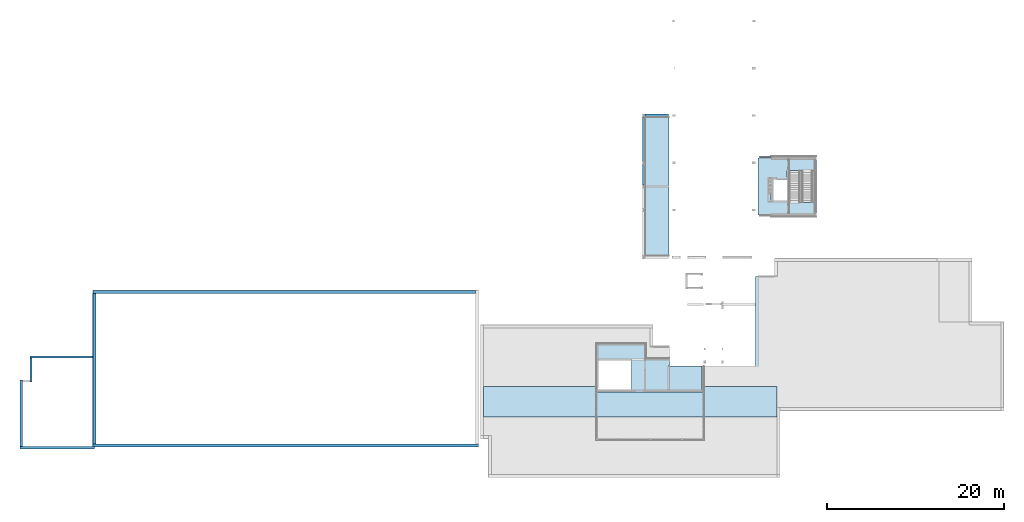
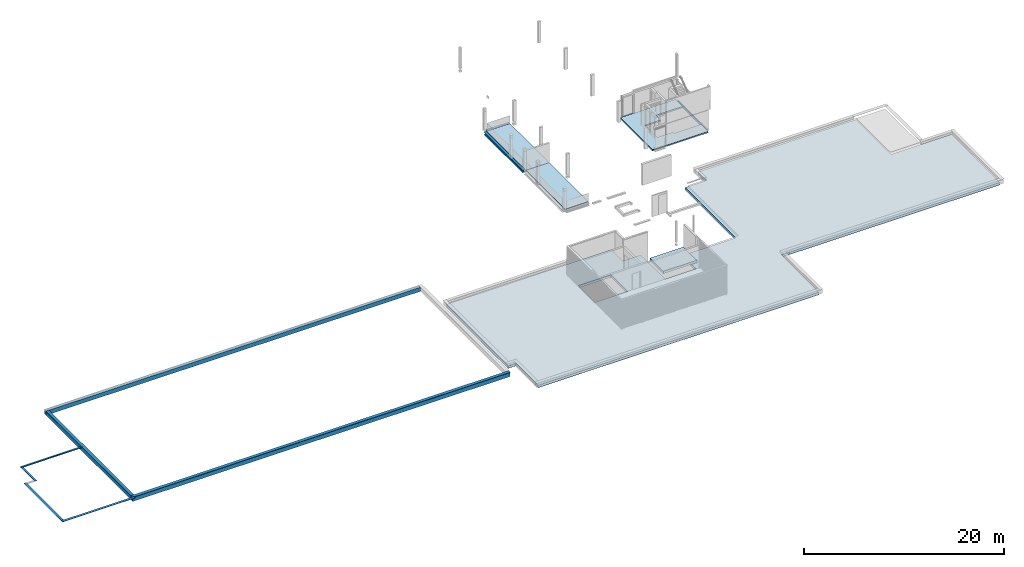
# One storey, part 3 of 22: 9 walls, 6 slabs, 4 beams.
"""IFC2X3 building model written with IfcOpenShell, lengths in millimetres."""

from ifc_helpers import new_model, entity, si_unit, converted_unit, derived_unit, money_unit, direction, frame, origin_with_axes, place, context, subcontext, project, spatial, faceted_brep, material, type_object, element, save


model = new_model("IFC2X3")

# Units and contexts
model_context = context("Model", 3, precision=0.01, world=origin_with_axes(), true_north=direction((0.0, 1.0)))
body_context = subcontext(model_context, "Body", "Model", "MODEL_VIEW")
ifc_project = project(units=[si_unit("LENGTHUNIT", "METRE", prefix="MILLI"), si_unit("AREAUNIT", "SQUARE_METRE"), si_unit("VOLUMEUNIT", "CUBIC_METRE"), converted_unit("PLANEANGLEUNIT", "DEGREE", entity("IfcPlaneAngleMeasure", 0.0174532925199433), si_unit("PLANEANGLEUNIT", "RADIAN"), dimensions=[0, 0, 0, 0, 0, 0, 0]), money_unit("EUR"), converted_unit("TIMEUNIT", "Year", entity("IfcTimeMeasure", 31557600.0), si_unit("TIMEUNIT", "SECOND"), dimensions=[0, 0, 1, 0, 0, 0, 0]), si_unit("MASSUNIT", "GRAM", prefix="KILO"), si_unit("THERMODYNAMICTEMPERATUREUNIT", "DEGREE_CELSIUS"), si_unit("LUMINOUSINTENSITYUNIT", "LUMEN"), si_unit("ENERGYUNIT", "JOULE", prefix="MEGA"), derived_unit("THERMALCONDUCTANCEUNIT", [(si_unit("POWERUNIT", "WATT"), 1), (si_unit("LENGTHUNIT", "METRE"), -1), (si_unit("THERMODYNAMICTEMPERATUREUNIT", "KELVIN"), -1)]), derived_unit("SPECIFICHEATCAPACITYUNIT", [(si_unit("ENERGYUNIT", "JOULE"), 1), (si_unit("MASSUNIT", "GRAM", prefix="KILO"), -1), (si_unit("THERMODYNAMICTEMPERATUREUNIT", "KELVIN"), -1)]), derived_unit("MASSDENSITYUNIT", [(si_unit("MASSUNIT", "GRAM", prefix="KILO"), 1), (si_unit("VOLUMEUNIT", "CUBIC_METRE"), -1)])], contexts=[model_context])

# Site, building, storey
site_placement = place(None, origin_with_axes())
site = spatial("IfcSite", under=ifc_project, at=site_placement, Name="Site", CompositionType="ELEMENT")
building_placement = place(site_placement, origin_with_axes())
building = spatial("IfcBuilding", under=site, at=building_placement, Name="Naam gebouw", CompositionType="ELEMENT")
storey_placement = place(building_placement, frame((0.0, 0.0, 11150.0), z_axis=(0.0, 0.0, 1.0), x_axis=(1.0, 0.0, 0.0)))
storey = spatial("IfcBuildingStorey", under=building, at=storey_placement, Name="3e verdieping/dak N", CompositionType="ELEMENT", Elevation=11150.0)

# Beams
ifc_material_1 = material(Name="staal geanodiseerd RAL 7024")
beam_type_1 = type_object("IfcBeamType", Name="NLRS_28_SF_staal - balk - UNP:UNP300", PredefinedType="BEAM")
beam_1_placement = place(storey_placement, frame((31685.00219861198, 39234.57878397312, 159.9999999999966), z_axis=(0.0, 0.0, 1.0), x_axis=(0.0, 1.0, 0.0)))
element("IfcBeam", 1, at=beam_1_placement, inside=storey, type_object=beam_type_1, material=ifc_material_1, Name="NLRS_28_SF_staal - balk - UNP:UNP300", ObjectType="BEAM", context=body_context, shape_type="Brep", body=[
    faceted_brep([(-54.66666666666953, 0.0, 150.0000000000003), (-54.66666666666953, 1294.002198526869, 150.0000000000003), (-54.66666666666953, 1294.002198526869, -150.0000000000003), (-54.66666666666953, 0.0, -150.0000000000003), (45.33333333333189, 0.0, 150.0000000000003), (45.33333333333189, 1294.002198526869, 150.0000000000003), (45.33333333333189, 1294.002198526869, 144.1000000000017), (42.99018758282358, 1294.002198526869, 138.4431457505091), (37.33333333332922, 1294.002198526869, 136.1000000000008), (-28.66666666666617, 1294.002198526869, 132.8000000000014), (-36.66666666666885, 1294.002198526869, 130.6564064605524), (-42.52307312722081, 1294.002198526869, 124.8000000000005), (-44.66666666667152, 1294.002198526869, 116.7999999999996), (-44.66666666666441, 1294.002198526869, -116.8000000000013), (-42.52307312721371, 1294.002198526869, -124.8000000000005), (-36.66666666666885, 1294.002198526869, -130.6564064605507), (-28.66666666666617, 1294.002198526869, -132.7999999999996), (37.33333333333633, 1294.002198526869, -136.099999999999), (42.99018758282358, 1294.002198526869, -138.4431457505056), (45.33333333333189, 1294.002198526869, -144.0999999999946), (45.33333333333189, 1294.002198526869, -150.0000000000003), (45.33333333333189, 0.0, -150.0000000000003), (45.33333333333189, 0.0, -144.0999999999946), (42.99018758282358, 0.0, -138.4431457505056), (37.33333333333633, 0.0, -136.099999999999), (-28.66666666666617, 0.0, -132.7999999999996), (-36.66666666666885, 0.0, -130.6564064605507), (-42.52307312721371, 0.0, -124.8000000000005), (-44.66666666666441, 0.0, -116.8000000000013), (-44.66666666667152, 0.0, 116.7999999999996), (-42.52307312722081, 0.0, 124.8000000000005), (-36.66666666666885, 0.0, 130.6564064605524), (-28.66666666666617, 0.0, 132.8000000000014), (37.33333333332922, 0.0, 136.1000000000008), (42.99018758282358, 0.0, 138.4431457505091), (45.33333333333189, 0.0, 144.1000000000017)], [[[0, 1, 2, 3]], [[4, 5, 1, 0]], [[2, 1, 5, 6, 7, 8, 9, 10, 11, 12, 13, 14, 15, 16, 17, 18, 19, 20]], [[3, 2, 20, 21]], [[4, 0, 3, 21, 22, 23, 24, 25, 26, 27, 28, 29, 30, 31, 32, 33, 34, 35]], [[35, 6, 5, 4]], [[34, 7, 6, 35]], [[33, 8, 7, 34]], [[32, 9, 8, 33]], [[31, 10, 9, 32]], [[30, 11, 10, 31]], [[29, 12, 11, 30]], [[28, 13, 12, 29]], [[27, 14, 13, 28]], [[26, 15, 14, 27]], [[25, 16, 15, 26]], [[24, 17, 16, 25]], [[23, 18, 17, 24]], [[22, 19, 18, 23]], [[21, 20, 19, 22]]]),
])
ifc_material_2 = material(Name="staal")
beam_2_placement = place(storey_placement, frame((36705.66666672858, 38965.91242623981, 159.9999999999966), z_axis=(0.0, 0.0, 1.0), x_axis=(-1.0, 0.0, 0.0)))
element("IfcBeam", 2, at=beam_2_placement, inside=storey, type_object=beam_type_1, material=ifc_material_2, Name="NLRS_28_SF_staal - balk - UNP:UNP300", ObjectType="BEAM", context=body_context, shape_type="Brep", body=[
    faceted_brep([(-45.33333333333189, 0.0, 150.0000000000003), (-45.33333333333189, 6039.999999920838, 150.0000000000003), (-45.33333333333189, 6039.999999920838, 144.0999999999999), (-45.33333333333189, 0.0, 144.0999999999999), (54.66666666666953, 0.0, 150.0000000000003), (54.66666666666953, 6039.999999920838, 150.0000000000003), (54.66666666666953, 6039.999999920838, -150.0000000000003), (-45.33333333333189, 6039.999999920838, -150.0000000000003), (-45.33333333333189, 6039.999999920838, -144.0999999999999), (-42.99018758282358, 6039.999999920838, -138.4431457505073), (-37.33333333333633, 6039.999999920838, -136.099999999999), (28.66666666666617, 6039.999999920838, -132.7999999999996), (36.66666666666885, 6039.999999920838, -130.6564064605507), (42.52307312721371, 6039.999999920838, -124.8000000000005), (44.66666666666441, 6039.999999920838, -116.7999999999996), (44.66666666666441, 6039.999999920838, 116.7999999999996), (42.52307312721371, 6039.999999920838, 124.7999999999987), (36.66666666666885, 6039.999999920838, 130.6564064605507), (28.66666666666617, 6039.999999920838, 132.7999999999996), (-37.33333333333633, 6039.999999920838, 136.1000000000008), (-42.99018758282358, 6039.999999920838, 138.4431457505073), (-42.99018758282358, 0.0, 138.4431457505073), (-37.33333333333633, 0.0, 136.1000000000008), (28.66666666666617, 0.0, 132.7999999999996), (36.66666666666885, 0.0, 130.6564064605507), (42.52307312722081, 0.0, 124.7999999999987), (44.66666666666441, 0.0, 116.7999999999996), (44.66666666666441, 0.0, -116.7999999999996), (42.52307312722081, 0.0, -124.8000000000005), (36.66666666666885, 0.0, -130.6564064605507), (28.66666666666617, 0.0, -132.7999999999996), (-37.33333333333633, 0.0, -136.099999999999), (-42.99018758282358, 0.0, -138.4431457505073), (-45.33333333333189, 0.0, -144.0999999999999), (-45.33333333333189, 0.0, -150.0000000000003), (54.66666666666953, 0.0, -150.0000000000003)], [[[0, 1, 2, 3]], [[4, 5, 1, 0]], [[2, 1, 5, 6, 7, 8, 9, 10, 11, 12, 13, 14, 15, 16, 17, 18, 19, 20]], [[3, 2, 20, 21]], [[4, 0, 3, 21, 22, 23, 24, 25, 26, 27, 28, 29, 30, 31, 32, 33, 34, 35]], [[35, 6, 5, 4]], [[34, 7, 6, 35]], [[33, 8, 7, 34]], [[32, 9, 8, 33]], [[31, 10, 9, 32]], [[30, 11, 10, 31]], [[29, 12, 11, 30]], [[28, 13, 12, 29]], [[27, 14, 13, 28]], [[26, 15, 14, 27]], [[25, 16, 15, 26]], [[24, 17, 16, 25]], [[23, 18, 17, 24]], [[22, 19, 18, 23]], [[21, 20, 19, 22]]]),
])
beam_type_2 = type_object("IfcBeamType", Name="NLRS_28_SF_LIB_balk HE_generiek_ISR:balk HE_gen_HEB300", PredefinedType="BEAM")
beam_3_placement = place(storey_placement, frame((20122.00000008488, 43945.91242627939, 159.9999999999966), z_axis=(0.0, 0.0, 1.0), x_axis=(0.0, 1.0, 0.0)))
element("IfcBeam", 3, at=beam_3_placement, inside=storey, type_object=beam_type_2, material=ifc_material_1, Name="NLRS_28_SF_LIB_balk HE_generiek_ISR:balk HE_gen_HEB300", ObjectType="BEAM", context=body_context, shape_type="Brep", body=[
    faceted_brep([(-149.9999999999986, 0.0, 150.0000000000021), (-149.9999999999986, 2680.000000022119, 150.0000000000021), (-149.9999999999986, 2680.000000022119, 131.000000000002), (-149.9999999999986, 0.0, 131.000000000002), (149.9999999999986, 0.0, 150.0000000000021), (149.9999999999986, 2680.000000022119, 150.0000000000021), (149.9999999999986, 2680.000000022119, 131.000000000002), (32.49999999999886, 2680.000000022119, 131.000000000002), (18.99999999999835, 2680.000000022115, 127.382685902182), (9.11731409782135, 2680.000000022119, 117.5000000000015), (5.49999999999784, 2680.000000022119, 104.000000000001), (5.49999999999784, 2680.000000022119, -103.9999999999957), (9.11731409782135, 2680.000000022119, -117.4999999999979), (18.99999999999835, 2680.000000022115, -127.3826859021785), (32.49999999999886, 2680.000000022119, -130.9999999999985), (149.9999999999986, 2680.000000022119, -130.9999999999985), (149.9999999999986, 2680.000000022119, -149.9999999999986), (-149.9999999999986, 2680.000000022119, -149.9999999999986), (-149.9999999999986, 2680.000000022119, -130.9999999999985), (-32.50000000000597, 2680.000000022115, -130.9999999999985), (-18.99999999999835, 2680.000000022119, -127.3826859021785), (-9.11731409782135, 2680.000000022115, -117.4999999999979), (-5.49999999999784, 2680.000000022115, -103.9999999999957), (-5.49999999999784, 2680.000000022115, 104.000000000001), (-9.11731409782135, 2680.000000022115, 117.5000000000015), (-18.99999999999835, 2680.000000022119, 127.382685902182), (-32.50000000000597, 2680.000000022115, 131.000000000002), (-32.50000000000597, 0.0, 131.000000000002), (-18.99999999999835, 0.0, 127.382685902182), (-9.11731409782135, 0.0, 117.5000000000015), (-5.49999999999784, 0.0, 104.000000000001), (-5.49999999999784, 0.0, -103.9999999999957), (-9.11731409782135, 0.0, -117.4999999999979), (-18.99999999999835, 0.0, -127.3826859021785), (-32.50000000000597, 0.0, -130.9999999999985), (-149.9999999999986, 0.0, -130.9999999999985), (-149.9999999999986, 0.0, -149.9999999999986), (149.9999999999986, 0.0, -149.9999999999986), (149.9999999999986, 0.0, -130.9999999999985), (32.49999999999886, 0.0, -130.9999999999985), (18.99999999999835, 0.0, -127.3826859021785), (9.11731409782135, 0.0, -117.4999999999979), (5.49999999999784, 0.0, -103.9999999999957), (5.49999999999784, 0.0, 104.000000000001), (9.11731409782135, 0.0, 117.5000000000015), (18.99999999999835, 0.0, 127.382685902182), (32.49999999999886, 0.0, 131.000000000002), (149.9999999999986, 0.0, 131.000000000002)], [[[0, 1, 2, 3]], [[4, 5, 1, 0]], [[2, 1, 5, 6, 7, 8, 9, 10, 11, 12, 13, 14, 15, 16, 17, 18, 19, 20, 21, 22, 23, 24, 25, 26]], [[3, 2, 26, 27]], [[4, 0, 3, 27, 28, 29, 30, 31, 32, 33, 34, 35, 36, 37, 38, 39, 40, 41, 42, 43, 44, 45, 46, 47]], [[47, 6, 5, 4]], [[46, 7, 6, 47]], [[45, 8, 7, 46]], [[44, 9, 8, 45]], [[43, 10, 9, 44]], [[42, 11, 10, 43]], [[41, 12, 11, 42]], [[40, 13, 12, 41]], [[39, 14, 13, 40]], [[38, 15, 14, 39]], [[37, 16, 15, 38]], [[36, 17, 16, 37]], [[35, 18, 17, 36]], [[34, 19, 18, 35]], [[33, 20, 19, 34]], [[32, 21, 20, 33]], [[31, 22, 21, 32]], [[30, 23, 22, 31]], [[29, 24, 23, 30]], [[28, 25, 24, 29]], [[27, 26, 25, 28]]]),
])
beam_4_placement = place(storey_placement, frame((17292.00000003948, 36100.91242636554, 159.9999999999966), z_axis=(0.0, 0.0, 1.0), x_axis=(1.0, 0.0, 0.0)))
element("IfcBeam", 4, at=beam_4_placement, inside=storey, type_object=beam_type_2, material=ifc_material_1, Name="NLRS_28_SF_LIB_balk HE_generiek_ISR:balk HE_gen_HEB300", ObjectType="BEAM", context=body_context, shape_type="Brep", body=[
    faceted_brep([(-150.0000000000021, 0.0, 150.0000000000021), (-150.0000000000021, 7694.999999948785, 150.0000000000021), (-150.0000000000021, 7694.999999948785, 131.000000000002), (-150.0000000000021, 0.0, 131.000000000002), (149.9999999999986, 0.0, 150.0000000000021), (149.9999999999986, 7694.999999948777, 150.0000000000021), (149.9999999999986, 7694.999999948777, 131.000000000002), (32.50000000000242, 7694.999999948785, 131.000000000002), (18.99999999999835, 7694.999999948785, 127.382685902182), (9.117314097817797, 7694.999999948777, 117.5000000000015), (5.49999999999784, 7694.999999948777, 104.000000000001), (5.49999999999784, 7694.999999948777, -103.9999999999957), (9.117314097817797, 7694.999999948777, -117.4999999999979), (18.99999999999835, 7694.999999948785, -127.3826859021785), (32.50000000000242, 7694.999999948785, -130.9999999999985), (149.9999999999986, 7694.999999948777, -130.9999999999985), (149.9999999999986, 7694.999999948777, -149.9999999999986), (-150.0000000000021, 7694.999999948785, -149.9999999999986), (-150.0000000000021, 7694.999999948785, -130.9999999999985), (-32.50000000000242, 7694.999999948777, -130.9999999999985), (-19.0000000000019, 7694.999999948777, -127.3826859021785), (-9.11731409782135, 7694.999999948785, -117.4999999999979), (-5.500000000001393, 7694.999999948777, -103.9999999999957), (-5.500000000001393, 7694.999999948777, 104.000000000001), (-9.11731409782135, 7694.999999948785, 117.5000000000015), (-19.0000000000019, 7694.999999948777, 127.382685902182), (-32.50000000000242, 7694.999999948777, 131.000000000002), (-32.50000000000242, 0.0, 131.000000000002), (-19.0000000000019, 0.0, 127.382685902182), (-9.11731409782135, 0.0, 117.5000000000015), (-5.500000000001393, 0.0, 104.000000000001), (-5.500000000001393, 0.0, -103.9999999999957), (-9.11731409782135, 0.0, -117.4999999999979), (-19.0000000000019, 0.0, -127.3826859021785), (-32.50000000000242, 0.0, -130.9999999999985), (-150.0000000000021, 0.0, -130.9999999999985), (-150.0000000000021, 0.0, -149.9999999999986), (149.9999999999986, 0.0, -149.9999999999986), (149.9999999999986, 0.0, -130.9999999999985), (32.50000000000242, 0.0, -130.9999999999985), (19.0000000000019, 0.0, -127.3826859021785), (9.11731409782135, 0.0, -117.4999999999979), (5.49999999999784, 0.0, -103.9999999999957), (5.49999999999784, 0.0, 104.000000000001), (9.11731409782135, 0.0, 117.5000000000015), (19.0000000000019, 0.0, 127.382685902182), (32.50000000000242, 0.0, 131.000000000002), (149.9999999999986, 0.0, 131.000000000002)], [[[0, 1, 2, 3]], [[4, 5, 1, 0]], [[2, 1, 5, 6, 7, 8, 9, 10, 11, 12, 13, 14, 15, 16, 17, 18, 19, 20, 21, 22, 23, 24, 25, 26]], [[3, 2, 26, 27]], [[4, 0, 3, 27, 28, 29, 30, 31, 32, 33, 34, 35, 36, 37, 38, 39, 40, 41, 42, 43, 44, 45, 46, 47]], [[47, 6, 5, 4]], [[46, 7, 6, 47]], [[45, 8, 7, 46]], [[44, 9, 8, 45]], [[43, 10, 9, 44]], [[42, 11, 10, 43]], [[41, 12, 11, 42]], [[40, 13, 12, 41]], [[39, 14, 13, 40]], [[38, 15, 14, 39]], [[37, 16, 15, 38]], [[36, 17, 16, 37]], [[35, 18, 17, 36]], [[34, 19, 18, 35]], [[33, 20, 19, 34]], [[32, 21, 20, 33]], [[31, 22, 21, 32]], [[30, 23, 22, 31]], [[29, 24, 23, 30]], [[28, 25, 24, 29]], [[27, 26, 25, 28]]]),
])

# Slabs
ifc_material_3 = material(Name="beton")
slab_type_1 = type_object("IfcSlabType", Name="Floor:23_3B_beton 170mm", PredefinedType="FLOOR")
slab_1_placement = place(storey_placement, frame((36580.00000003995, 32711.91242634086, 310.0000000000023), z_axis=(0.0, 0.0, 1.0), x_axis=(1.0, 0.0, 0.0)))
element("IfcSlab", 5, at=slab_1_placement, inside=storey, type_object=slab_type_1, material=ifc_material_3, Name="Floor:23_3B_beton 170mm", PredefinedType="FLOOR", context=body_context, shape_type="Brep", body=[
    faceted_brep([(0.0, 0.0, 0.0), (0.0, 0.0, -169.9999999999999), (0.0, 1433.999999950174, -169.9999999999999), (0.0, 1433.999999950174, 0.0), (-6388.999999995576, 0.0, 0.0), (-6388.999999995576, 0.0, -169.9999999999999), (-6389.00000002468, 6467.999999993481, -169.9999999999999), (0.0, 6467.999999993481, -169.9999999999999), (0.0, 5033.999999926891, -169.9999999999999), (-3082.000000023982, 5034.000000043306, -169.9999999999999), (-3081.999999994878, 4087.999999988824, -169.9999999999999), (-4896.000000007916, 4087.999999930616, -169.9999999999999), (-4896.000000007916, 1647.999999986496, -169.9999999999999), (-3081.999999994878, 1647.999999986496, -169.9999999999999), (-3082.000000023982, 1434.000000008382, -169.9999999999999), (-3082.000000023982, 1434.000000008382, 0.0), (-3081.999999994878, 1647.999999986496, 0.0), (-4896.000000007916, 1647.999999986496, 0.0), (-4896.000000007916, 4087.999999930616, 0.0), (-3081.999999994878, 4087.999999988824, 0.0), (-3082.000000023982, 5034.000000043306, 0.0), (0.0, 5033.999999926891, 0.0), (0.0, 6467.999999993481, 0.0), (-6389.00000002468, 6467.999999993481, 0.0)], [[[0, 1, 2, 3]], [[4, 5, 1, 0]], [[2, 1, 5, 6, 7, 8, 9, 10, 11, 12, 13, 14]], [[3, 2, 14, 15]], [[4, 0, 3, 15, 16, 17, 18, 19, 20, 21, 22, 23]], [[23, 6, 5, 4]], [[22, 7, 6, 23]], [[21, 8, 7, 22]], [[20, 9, 8, 21]], [[19, 10, 9, 20]], [[18, 11, 10, 19]], [[17, 12, 11, 18]], [[16, 13, 12, 17]], [[15, 14, 13, 16]]]),
])
ifc_material_4 = material(Name="ALG - CONSTRUCTIEF VLOER")
slab_type_2 = type_object("IfcSlabType", Name="ALG - CONSTRUCTIEF VLOER 300", PredefinedType="NOTDEFINED")
slab_2_placement = place(storey_placement, frame((-884.4276394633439, 20095.91242510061, 0.0), z_axis=(0.0, 0.0, 1.0), x_axis=(1.0, 0.0, 0.0)))
element("IfcSlab", 6, at=slab_2_placement, inside=storey, type_object=slab_type_2, material=ifc_material_4, Name="_Vloer-x", PredefinedType="NOTDEFINED", context=body_context, shape_type="Brep", body=[
    faceted_brep([(0.0, 0.0, 0.0), (0.0, 0.0, -300.0000000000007), (0.0, -12400.32318198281, -300.0000000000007), (0.0, -12400.32318198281, 0.0), (19048.83597786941, 0.0, 0.0), (19048.83597786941, 0.0, -300.0000000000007), (19048.83597786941, -2271.161198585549, -300.0000000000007), (21090.42763946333, -2271.161198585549, -300.0000000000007), (21090.42763946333, -4425.000000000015, -300.0000000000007), (21125.42763946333, -4425.000000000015, -300.0000000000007), (21125.42763946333, -7101.304385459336, -300.0000000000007), (24687.42763946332, -7101.304385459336, -300.0000000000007), (24687.42763946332, -4425.000000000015, -300.0000000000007), (30829.42763946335, -4425.000000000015, -300.0000000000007), (30829.42763946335, 5685.502109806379, -300.0000000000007), (33284.42763946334, 5685.502109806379, -300.0000000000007), (33284.42763946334, 7410.000000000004, -300.0000000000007), (51524.42763946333, 7410.000000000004, -300.0000000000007), (51524.42763946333, 404.9999999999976, -300.0000000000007), (58484.42763946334, 404.9999999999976, -300.0000000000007), (58484.42763946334, -9273.179443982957, -300.0000000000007), (34194.77529018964, -9273.179443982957, -300.0000000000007), (34194.77529018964, -9267.951718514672, -300.0000000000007), (33284.42763946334, -9267.951718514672, -300.0000000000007), (33284.42763946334, -16800.0, -300.0000000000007), (884.4276394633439, -16800.0, -300.0000000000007), (884.4276394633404, -12400.32318198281, -300.0000000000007), (16824.92815794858, -3780.000000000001, -300.0000000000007), (13042.1674132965, -3780.000000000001, -300.0000000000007), (13042.1674132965, -7101.304385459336, -300.0000000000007), (16824.92815794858, -7101.304385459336, -300.0000000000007), (884.4276394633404, -12400.32318198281, 0.0), (884.4276394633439, -16800.0, 0.0), (33284.42763946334, -16800.0, 0.0), (33284.42763946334, -9267.951718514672, 0.0), (34194.77529018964, -9267.951718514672, 0.0), (34194.77529018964, -9273.179443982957, 0.0), (58484.42763946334, -9273.179443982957, 0.0), (58484.42763946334, 404.9999999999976, 0.0), (51524.42763946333, 404.9999999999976, 0.0), (51524.42763946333, 7410.000000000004, 0.0), (33284.42763946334, 7410.000000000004, 0.0), (33284.42763946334, 5685.502109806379, 0.0), (30829.42763946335, 5685.502109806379, 0.0), (30829.42763946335, -4425.000000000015, 0.0), (24687.42763946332, -4425.000000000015, 0.0), (24687.42763946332, -7101.304385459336, 0.0), (21125.42763946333, -7101.304385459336, 0.0), (21125.42763946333, -4425.000000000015, 0.0), (21090.42763946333, -4425.000000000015, 0.0), (21090.42763946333, -2271.161198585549, 0.0), (19048.83597786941, -2271.161198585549, 0.0), (13042.1674132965, -7101.304385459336, 0.0), (13042.1674132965, -3780.000000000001, 0.0), (16824.92815794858, -3780.000000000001, 0.0), (16824.92815794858, -7101.304385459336, 0.0)], [[[0, 1, 2, 3]], [[4, 5, 1, 0]], [[2, 1, 5, 6, 7, 8, 9, 10, 11, 12, 13, 14, 15, 16, 17, 18, 19, 20, 21, 22, 23, 24, 25, 26], [27, 28, 29, 30]], [[3, 2, 26, 31]], [[4, 0, 3, 31, 32, 33, 34, 35, 36, 37, 38, 39, 40, 41, 42, 43, 44, 45, 46, 47, 48, 49, 50, 51], [52, 53, 54, 55]], [[51, 6, 5, 4]], [[50, 7, 6, 51]], [[49, 8, 7, 50]], [[48, 9, 8, 49]], [[47, 10, 9, 48]], [[46, 11, 10, 47]], [[45, 12, 11, 46]], [[44, 13, 12, 45]], [[43, 14, 13, 44]], [[42, 15, 14, 43]], [[41, 16, 15, 42]], [[40, 17, 16, 41]], [[39, 18, 17, 40]], [[38, 19, 18, 39]], [[37, 20, 19, 38]], [[36, 21, 20, 37]], [[35, 22, 21, 36]], [[34, 23, 22, 35]], [[33, 24, 23, 34]], [[32, 25, 24, 33]], [[31, 26, 25, 32]], [[53, 28, 27, 54]], [[52, 29, 28, 53]], [[55, 30, 29, 52]], [[54, 27, 30, 55]]]),
])
slab_3_placement = place(storey_placement, frame((20040.99999999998, 12994.60803964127, 1000.0), z_axis=(0.0, 0.0, 1.0), x_axis=(1.0, 0.0, 0.0)))
element("IfcSlab", 7, at=slab_3_placement, inside=storey, type_object=slab_type_2, material=ifc_material_4, Name="_Vloer-x", PredefinedType="NOTDEFINED", context=body_context, shape_type="Brep", body=[
    faceted_brep([(0.0, 0.0, 0.0), (0.0, 0.0, -300.0000000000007), (3858.93971507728, 0.0, -300.0000000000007), (3858.93971507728, 0.0, 0.0), (0.0, 2676.304385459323, 0.0), (0.0, 2676.304385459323, -300.0000000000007), (3858.93971507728, 2676.304385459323, -300.0000000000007), (3858.93971507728, 2676.304385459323, 0.0)], [[[0, 1, 2, 3]], [[4, 5, 1, 0]], [[2, 1, 5, 6]], [[3, 2, 6, 7]], [[4, 0, 3, 7]], [[7, 6, 5, 4]]]),
])
slab_type_3 = type_object("IfcSlabType", Name="Floor:23_3B_beton 170mm + 50mm metal deck", PredefinedType="FLOOR")
slab_4_placement = place(storey_placement, frame((20140.9999999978, 35950.91242628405, 310.0000000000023), z_axis=(0.0, 0.0, 1.0), x_axis=(1.0, 0.0, 0.0)))
element("IfcSlab", 8, at=slab_4_placement, inside=storey, type_object=slab_type_3, material=ifc_material_3, Name="Floor:23_3B_beton 170mm + 50mm metal deck", PredefinedType="FLOOR", context=body_context, shape_type="Brep", body=[
    faceted_brep([(0.0, 0.0, 0.0), (0.0, 0.0, -169.9999999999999), (-2698.999999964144, 5.820766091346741e-08, -169.9999999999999), (-2698.999999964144, 5.820766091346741e-08, 0.0), (2.91038304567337e-08, -7844.999999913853, 0.0), (2.91038304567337e-08, -7844.999999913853, -169.9999999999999), (-2698.999999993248, -7844.99999997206, -169.9999999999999), (-2698.999999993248, -7844.99999997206, 0.0)], [[[0, 1, 2, 3]], [[4, 5, 1, 0]], [[2, 1, 5, 6]], [[3, 2, 6, 7]], [[4, 0, 3, 7]], [[7, 6, 5, 4]]]),
])
slab_5_placement = place(storey_placement, frame((20141.00000002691, 43795.91242631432, 310.0000000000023), z_axis=(0.0, 0.0, 1.0), x_axis=(1.0, 0.0, 0.0)))
element("IfcSlab", 9, at=slab_5_placement, inside=storey, type_object=slab_type_3, material=ifc_material_3, Name="Floor:23_3B_beton 170mm + 50mm metal deck", PredefinedType="FLOOR", context=body_context, shape_type="Brep", body=[
    faceted_brep([(0.0, 0.0, 0.0), (0.0, 0.0, -169.9999999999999), (-2698.999999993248, 0.0, -169.9999999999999), (-2698.999999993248, 0.0, 0.0), (-2.91038304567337e-08, -7845.000000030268, 0.0), (-2.91038304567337e-08, -7845.000000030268, -169.9999999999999), (-2698.999999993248, -7844.99999997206, -169.9999999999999), (-2698.999999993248, -7844.99999997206, 0.0)], [[[0, 1, 2, 3]], [[4, 5, 1, 0]], [[2, 1, 5, 6]], [[3, 2, 6, 7]], [[4, 0, 3, 7]], [[7, 6, 5, 4]]]),
])
slab_type_4 = type_object("IfcSlabType", Name="ALG - CONSTRUCTIEF VLOER 210", PredefinedType="NOTDEFINED")
slab_6_placement = place(storey_placement, frame((-770.0368722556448, 9945.912425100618, -300.0000000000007), z_axis=(0.0, 0.0, 1.0), x_axis=(1.0, 0.0, 0.0)))
element("IfcSlab", 10, at=slab_6_placement, inside=storey, type_object=slab_type_4, material=ifc_material_4, Name="_Vloer-x", PredefinedType="NOTDEFINED", context=body_context, shape_type="Brep", body=[
    faceted_brep([(0.0, 0.0, 0.0), (0.0, 0.0, -210.0000000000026), (33115.50713233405, 0.0, -210.0000000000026), (33115.50713233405, 0.0, 0.0), (0.0, 3450.000000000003, 0.0), (0.0, 3450.000000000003, -210.0000000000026), (12675.53739074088, 3450.000000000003, -210.0000000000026), (12675.53739074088, 2798.695614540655, -210.0000000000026), (24773.03687225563, 2798.695614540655, -210.0000000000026), (24773.03687225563, 3450.000000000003, -210.0000000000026), (33115.50713233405, 3450.000000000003, -210.0000000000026), (33115.50713233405, 3450.000000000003, 0.0), (24773.03687225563, 3450.000000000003, 0.0), (24773.03687225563, 2798.695614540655, 0.0), (12675.53739074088, 2798.695614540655, 0.0), (12675.53739074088, 3450.000000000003, 0.0)], [[[0, 1, 2, 3]], [[4, 5, 1, 0]], [[2, 1, 5, 6, 7, 8, 9, 10]], [[3, 2, 10, 11]], [[4, 0, 3, 11, 12, 13, 14, 15]], [[15, 6, 5, 4]], [[14, 7, 6, 15]], [[13, 8, 7, 14]], [[12, 9, 8, 13]], [[11, 10, 9, 12]]]),
])

# Walls
ifc_material_5 = material(Name="ALG - CONSTRUCTIEF")
wall_type_1 = type_object("IfcWallType", Name="ALG - CONSTRUCTIEF 330", PredefinedType="NOTDEFINED")
wall_1_placement = place(storey_placement, frame((-44520.00000015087, 6895.576101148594, -439.9999999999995), z_axis=(0.0, 0.0, 1.0), x_axis=(0.9999999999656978, 8.282790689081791e-06, 0.0)))
element("IfcWall", 11, at=wall_1_placement, inside=storey, type_object=wall_type_1, material=ifc_material_5, Name="_Wand-x", context=body_context, shape_type="Brep", body=[
    faceted_brep([(43169.99726537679, -330.3575680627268, 500.0), (43169.99999869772, -0.3575680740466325, 500.0), (-329.9999999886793, 0.002733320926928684, 500.0), (-330.0027333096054, -329.9972666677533, 500.0), (43169.99726537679, -330.3575680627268, 0.0), (43169.99999869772, -0.3575680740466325, 0.0), (-329.9999999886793, 0.002733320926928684, 0.0), (-330.0027333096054, -329.9972666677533, 0.0)], [[[0, 1, 2, 3]], [[1, 0, 4, 5]], [[1, 5, 6, 2]], [[7, 3, 2, 6]], [[4, 0, 3, 7]], [[5, 4, 7, 6]]]),
])
ifc_material_6 = material(Name="ALG - BUITENAFWERKING")
wall_type_2 = type_object("IfcWallType", Name="ALG - BUITENAFWERKING 360", PredefinedType="NOTDEFINED")
wall_2_placement = place(storey_placement, frame((-44520.00000015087, 6895.576101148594, 60.0000000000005), z_axis=(0.0, 0.0, 1.0), x_axis=(0.9999999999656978, 8.282790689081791e-06, 0.0)))
element("IfcWall", 12, at=wall_2_placement, inside=storey, type_object=wall_type_2, material=ifc_material_6, Name="_Wand-x", context=body_context, shape_type="Brep", body=[
    faceted_brep([(43199.99701689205, -360.3578165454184, 25.00000000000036), (43199.99999869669, -0.3578165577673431, 25.00000000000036), (-359.9999999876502, 0.002981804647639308, 25.00000000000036), (-360.0029817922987, -359.9970181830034, 25.00000000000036), (43199.99701689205, -360.3578165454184, 0.0), (43199.99999869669, -0.3578165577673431, 0.0), (-359.9999999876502, 0.002981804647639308, 0.0), (-360.0029817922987, -359.9970181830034, 0.0)], [[[0, 1, 2, 3]], [[1, 0, 4, 5]], [[1, 5, 6, 2]], [[7, 3, 2, 6]], [[4, 0, 3, 7]], [[5, 4, 7, 6]]]),
])
wall_3_placement = place(storey_placement, frame((-44520.00000015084, 23885.57502437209, 60.0000000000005), z_axis=(0.0, 0.0, 1.0), x_axis=(0.0, -1.0, 0.0)))
element("IfcWall", 13, at=wall_3_placement, inside=storey, type_object=wall_type_2, material=ifc_material_6, Name="_Wand-x", context=body_context, shape_type="Brep", body=[
    faceted_brep([(16990.00190502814, -359.9999999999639, 25.00000000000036), (16989.99892322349, 0.0, 25.00000000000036), (0.0, 0.0, 25.00000000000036), (0.0, -359.9999999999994, 25.00000000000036), (16990.00190502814, -359.9999999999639, 0.0), (16989.99892322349, 0.0, 0.0), (0.0, 0.0, 0.0), (0.0, -359.9999999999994, 0.0)], [[[0, 1, 2, 3]], [[1, 0, 4, 5]], [[1, 5, 6, 2]], [[7, 3, 2, 6]], [[4, 0, 3, 7]], [[5, 4, 7, 6]]]),
])
ifc_material_7 = material(Name="ALG - ALGEMEEN")
wall_type_3 = type_object("IfcWallType", Name="ALG - ALGEMEEN 330", PredefinedType="NOTDEFINED")
wall_4_placement = place(storey_placement, frame((-1679.999999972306, 23885.57502437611, -439.9999999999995), z_axis=(0.0, 0.0, 1.0), x_axis=(-1.0, 0.0, 0.0)))
element("IfcWall", 14, at=wall_4_placement, inside=storey, type_object=wall_type_3, material=ifc_material_7, Name="_Wand-x", context=body_context, shape_type="Brep", body=[
    faceted_brep([(43170.00000017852, -329.9999999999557, 500.0), (43170.00000017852, 0.0, 500.0), (0.0, 0.0, 500.0), (0.0, -329.9999999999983, 500.0), (43170.00000017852, -329.9999999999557, 0.0), (43170.00000017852, 0.0, 0.0), (0.0, 0.0, 0.0), (0.0, -329.9999999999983, 0.0)], [[[0, 1, 2, 3]], [[1, 0, 4, 5]], [[1, 5, 6, 2]], [[7, 3, 2, 6]], [[4, 0, 3, 7]], [[5, 4, 7, 6]]]),
])
wall_5_placement = place(storey_placement, frame((-44520.00000015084, 23885.57502437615, -439.9999999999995), z_axis=(0.0, 0.0, 1.0), x_axis=(0.0, -1.0, 0.0)))
element("IfcWall", 15, at=wall_5_placement, inside=storey, type_object=wall_type_3, material=ifc_material_7, Name="_Wand-x", context=body_context, shape_type="Brep", body=[
    faceted_brep([(16990.00165654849, -329.9999999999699, 500.0), (16989.99892322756, 0.0, 500.0), (0.0, 0.0, 500.0), (0.0, -329.9999999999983, 500.0), (16990.00165654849, -329.9999999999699, 0.0), (16989.99892322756, 0.0, 0.0), (0.0, 0.0, 0.0), (0.0, -329.9999999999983, 0.0)], [[[0, 1, 2, 3]], [[1, 0, 4, 5]], [[1, 5, 6, 2]], [[7, 3, 2, 6]], [[4, 0, 3, 7]], [[5, 4, 7, 6]]]),
])
wall_type_4 = type_object("IfcWallType", Name="ALG - BUITENAFWERKING 230", PredefinedType="NOTDEFINED")
wall_6_placement = place(storey_placement, frame((-44520.00000015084, 16590.5750244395, 60.0000000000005), z_axis=(0.0, 0.0, 1.0), x_axis=(-1.0, 0.0, 0.0)))
element("IfcWall", 16, at=wall_6_placement, inside=storey, type_object=wall_type_4, material=ifc_material_6, Name="_Wand-x", context=body_context, shape_type="Brep", body=[
    faceted_brep([(7409.999999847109, -230.0000000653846, 25.00000000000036), (7409.999999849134, -6.538414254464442e-08, 25.00000000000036), (360.0000000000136, -3.176126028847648e-09, 25.00000000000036), (359.9999999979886, -230.0000000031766, 25.00000000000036), (7409.999999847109, -230.0000000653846, 0.0), (7409.999999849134, -6.538414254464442e-08, 0.0), (360.0000000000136, -3.176126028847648e-09, 0.0), (359.9999999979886, -230.0000000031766, 0.0)], [[[0, 1, 2, 3]], [[1, 0, 4, 5]], [[1, 5, 6, 2]], [[7, 3, 2, 6]], [[4, 0, 3, 7]], [[5, 4, 7, 6]]]),
])
wall_7_placement = place(storey_placement, frame((-51699.99999999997, 16590.57502437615, 60.0000000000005), z_axis=(0.0, 0.0, 1.0), x_axis=(0.0, -1.0, 0.0)))
element("IfcWall", 17, at=wall_7_placement, inside=storey, type_object=wall_type_4, material=ifc_material_6, Name="_Wand-x", context=body_context, shape_type="Brep", body=[
    faceted_brep([(2725.000000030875, -229.9999999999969, 25.00000000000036), (2725.000000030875, 0.0, 25.00000000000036), (0.0, 0.0, 25.00000000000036), (2.032152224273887e-09, -229.9999999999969, 25.00000000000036), (2725.000000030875, -229.9999999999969, 0.0), (2725.000000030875, 0.0, 0.0), (0.0, 0.0, 0.0), (2.032152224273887e-09, -229.9999999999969, 0.0)], [[[0, 1, 2, 3]], [[1, 0, 4, 5]], [[1, 5, 6, 2]], [[7, 3, 2, 6]], [[4, 0, 3, 7]], [[5, 4, 7, 6]]]),
])
wall_type_5 = type_object("IfcWallType", Name="ALG - BUITENAFWERKING 280", PredefinedType="NOTDEFINED")
wall_8_placement = place(storey_placement, frame((-53049.99999999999, 13895.57502434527, 60.0000000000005), z_axis=(0.0, 0.0, 1.0), x_axis=(0.0, -1.0, 0.0)))
element("IfcWall", 18, at=wall_8_placement, inside=storey, type_object=wall_type_5, material=ifc_material_6, Name="_Wand-x", context=body_context, shape_type="Brep", body=[
    faceted_brep([(7279.999999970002, -30.00000000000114, 25.00000000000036), (7279.999999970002, 250.0, 25.00000000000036), (-199.9999999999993, 250.0, 25.00000000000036), (-199.9999999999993, -30.00000000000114, 25.00000000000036), (7279.999999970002, -30.00000000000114, 0.0), (7279.999999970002, 250.0, 0.0), (-199.9999999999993, 250.0, 0.0), (-199.9999999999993, -30.00000000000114, 0.0)], [[[0, 1, 2, 3]], [[1, 0, 4, 5]], [[1, 5, 6, 2]], [[7, 3, 2, 6]], [[4, 0, 3, 7]], [[5, 4, 7, 6]]]),
])
wall_9_placement = place(storey_placement, frame((-44649.99999999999, 6365.575024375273, 60.0000000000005), z_axis=(0.0, 0.0, 1.0), x_axis=(-1.0, 0.0, 0.0)))
element("IfcWall", 19, at=wall_9_placement, inside=storey, type_object=wall_type_5, material=ifc_material_6, Name="_Wand-x", context=body_context, shape_type="Brep", body=[
    faceted_brep([(8429.999999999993, 29.99999999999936, 0.0), (8429.999999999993, -250.0000000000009, 0.0), (0.0, -250.0, 0.0), (0.0, 30.00000000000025, 0.0), (8429.999999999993, 29.99999999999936, 25.00000000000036), (8429.999999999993, -250.0000000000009, 25.00000000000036), (0.0, -250.0, 25.00000000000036), (0.0, 30.00000000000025, 25.00000000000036)], [[[0, 1, 2, 3]], [[1, 0, 4, 5]], [[1, 5, 6, 2]], [[7, 3, 2, 6]], [[4, 0, 3, 7]], [[5, 4, 7, 6]]]),
])

save(model, "model.ifc")
